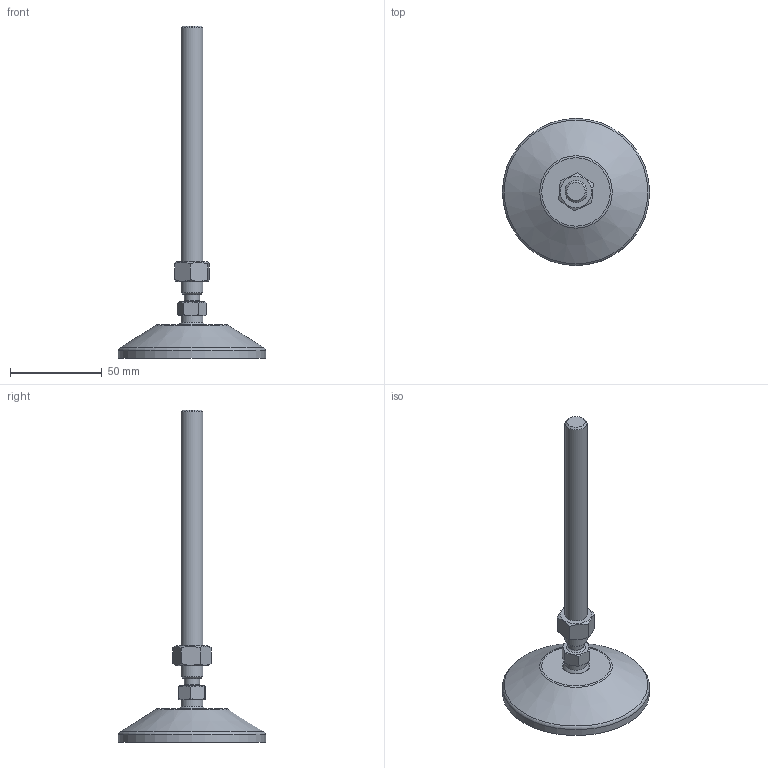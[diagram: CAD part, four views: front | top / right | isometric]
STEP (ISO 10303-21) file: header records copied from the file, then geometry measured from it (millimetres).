
FILE_DESCRIPTION(('STEP AP203'), '1');
FILE_NAME('栖闉罻', '', ('UNSPECIFIED'), ('UNSPECIFIED'), 'C3D Converter', 'C3D Toolkit', '');
FILE_SCHEMA(('CONFIG_CONTROL_DESIGN'));
Length unit declared in the file: millimetre
Products named in the file (4): A00020.112150; A00015.1080
Assembly tree (3 placements, depth 3):
  (unnamed)
    A00020.112150
      (unnamed)
    A00015.1080
Bounding box: 80 x 80 x 180.48 mm (x, y, z)
Volume: 57715.9 mm3; surface area: 24804.4 mm2
Topology: 3 solids, 3 shells, 191 faces, 476 edges, 313 vertices
Faces by surface type: plane 96, cylinder 58, cone 21, torus 14, sphere 2
Full cylindrical faces by diameter (mm): 4 x8, 8.3 x1, 10.647 x1, 12 x2, 14.3 x1, 15 x2, 15.5 x1, 69.3 x1, 80 x1
Entity records: 9541 total; most frequent: CARTESIAN_POINT 3351, DIRECTION 942, ORIENTED_EDGE 880, EDGE_CURVE 440, AXIS2_PLACEMENT_3D 377, VERTEX_POINT 312, EDGE_LOOP 250, FACE_BOUND 207
